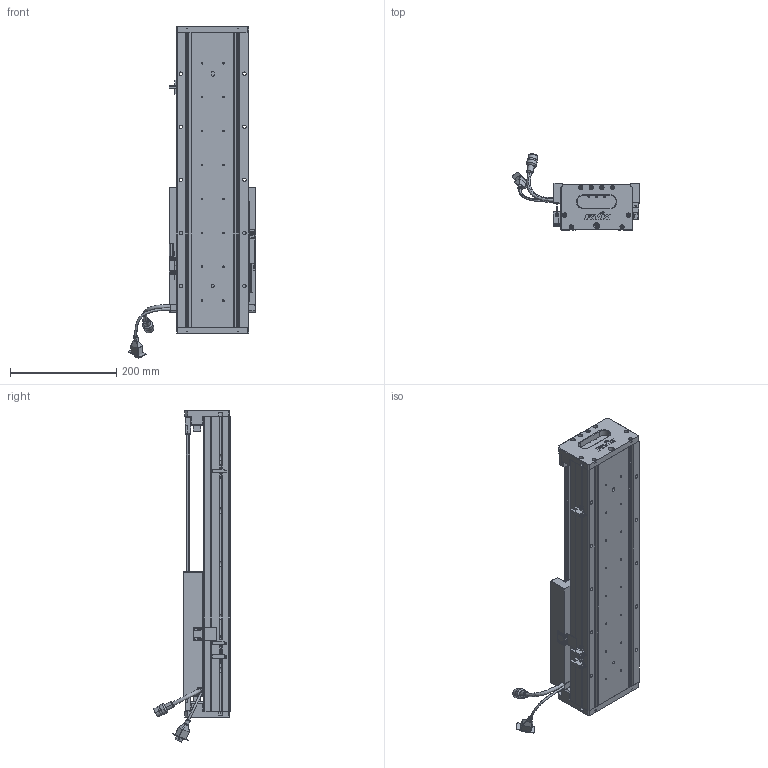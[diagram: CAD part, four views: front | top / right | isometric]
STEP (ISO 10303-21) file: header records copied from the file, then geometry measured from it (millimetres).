
FILE_DESCRIPTION (( 'STEP AP203' ), '1' );
FILE_NAME ('Z3-RY140D-1-L500-B-K.SLDASM_0250.step', '2021-05-17T07:59:57', ( '盈信电脑' ), ( '东莞市道滘镇水果街19号' ), 'SwSTEP 2.0', 'SolidWorks 2016', '' );
FILE_SCHEMA (( 'CONFIG_CONTROL_DESIGN' ));
Length unit declared in the file: millimetre
Products named in the file (36): Z-RY140詩湍奻揤裔; Z-RY140感应器672光电感应片; SCREW-M1.7; SCREW-M1.7-1; Z-RY140詩湍狟揤裔; HARNESS; SHIELDPLATE; SCREW-M1.6-3; Z3-RY140-L500詩湍100mm遵_0250; Z-140詩湍傷裔啣; HARNESS-Part-1; PBU_SHEET; 140蚥薯蝶輸; SCALE; 覜茼ん672; 080黍杅芛假蚾釱21遴; Z3-RY140D-1-L500-B-K.SLDASM_0250; 榋妏寠巭燃_暯_M2_2; Z3-RY140圉猾敕臏賑輸(21遴); SEAL; SCREW-M1.6-1; SCALE-Part-2; SCREW-M1.6-2; HARNESS-Part-2; 140雄赽晤鎢ん堤盄; PSLH080_PSLF2; 140-Z-臏賑輸盄裔(21遴); COVER-Part-1; COVER; LABEL; SCALE-Part-1; HOLDER0; SEAL-Part-1; LABEL-Part-1; Z3-RY140-L500直线电机模组底座_0250; SCREW-M1.6
Assembly tree (41 placements, depth 4):
  Z3-RY140D-1-L500-B-K.SLDASM_0250
    Z3-RY140-L500直线电机模组底座_0250
    Z-RY140感应器672光电感应片
    Z3-RY140圉猾敕臏賑輸(21遴)
    覜茼ん672  x3
    Z3-RY140-L500詩湍100mm遵_0250
    PSLH080_PSLF2
      SCALE
        SCALE-Part-1
        SCALE-Part-2
      HARNESS
        HARNESS-Part-1
        HARNESS-Part-2
      LABEL
        LABEL-Part-1
      COVER
        COVER-Part-1
      SEAL
        SEAL-Part-1
      榋妏寠巭燃_暯_M2_2
      SHIELDPLATE
      SCREW-M1.7
      SCREW-M1.7-1
      PBU_SHEET
      SCREW-M1.6
      SCREW-M1.6-1
      SCREW-M1.6-2
      SCREW-M1.6-3
      HOLDER0
    080黍杅芛假蚾釱21遴
    140-Z-臏賑輸盄裔(21遴)
    Z-140詩湍傷裔啣  x2
    Z-RY140詩湍狟揤裔  x2
    Z-RY140詩湍奻揤裔  x2
    140蚥薯蝶輸  x2
    140雄赽晤鎢ん堤盄
Bounding box: 239.84 x 143.88 x 625.88 mm (x, y, z)
Volume: 2774406.8 mm3; surface area: 706491.8 mm2
Topology: 36 solids, 36 shells, 2616 faces, 6788 edges, 4291 vertices
Faces by surface type: cylinder 1150, plane 1074, cone 270, torus 69, bspline 53
Entity records: 73576 total; most frequent: CARTESIAN_POINT 17339, DIRECTION 11044, ORIENTED_EDGE 10760, EDGE_CURVE 5380, AXIS2_PLACEMENT_3D 4044, VERTEX_POINT 3459, LINE 2956, VECTOR 2956
